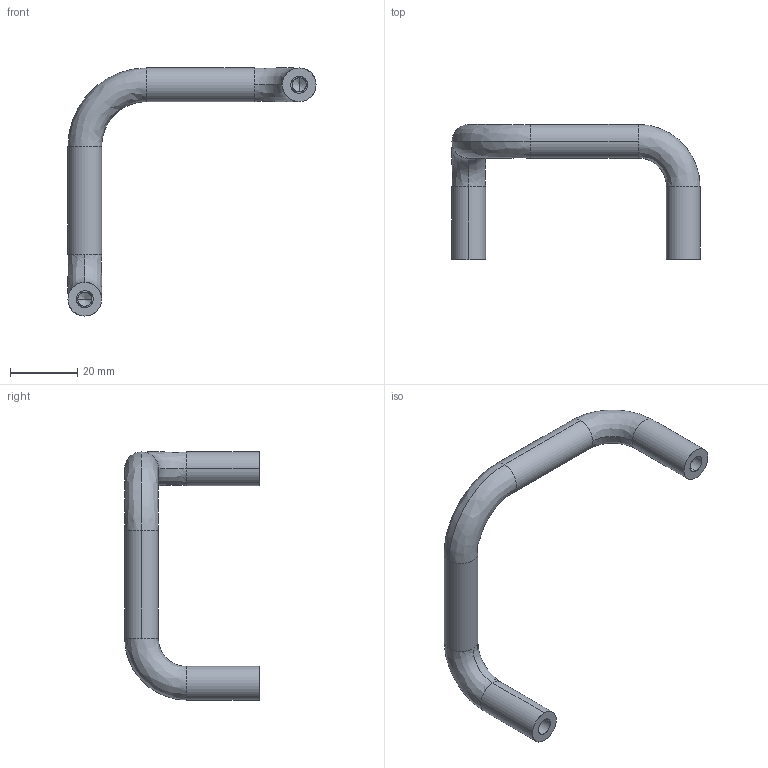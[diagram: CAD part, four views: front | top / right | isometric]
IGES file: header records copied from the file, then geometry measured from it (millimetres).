
Start section: SolidWorks IGES file using analytic representation for surfaces
Global section: file name: C:\Users\IanO\Desktop\Temp File\Process pending\78770_v2\78770_v2_20171022_IGES\78770.W0090.igs; native system: SolidWorks 2017; preprocessor: SolidWorks 2017; author: IanO; date: 171206.115652; units: millimetre
Bounding box: 73.64 x 40 x 73.64 mm (x, y, z)
Surface area: 6103.4 mm2 (no closed solid volume)
Topology: 0 solids, 0 shells, 30 faces, 368 edges, 364 vertices
Faces by surface type: revolution 20, bspline 10
